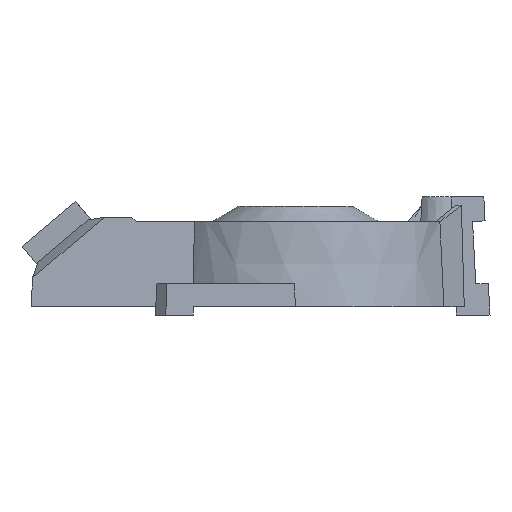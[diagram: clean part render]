
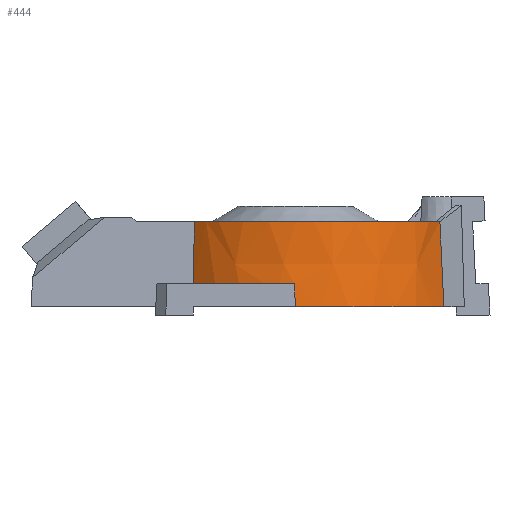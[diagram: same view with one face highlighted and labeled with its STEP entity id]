
A CAD part, front view. The second image highlights one B-rep face of the part: STEP entity #444.
In plain terms, the highlighted conical face has half-angle 3 degrees and reference radius 320 mm.
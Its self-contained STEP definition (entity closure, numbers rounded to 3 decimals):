
#16 = CARTESIAN_POINT ( 'NONE',  ( 106.478, -292.712, 187. ) ) ;
#23 = EDGE_LOOP ( 'NONE', ( #3090, #3959, #2238, #4058, #425, #1323, #4095 ) ) ;
#57 = CARTESIAN_POINT ( 'NONE',  ( -39.129, -315.704, 63. ) ) ;
#109 = DIRECTION ( 'NONE',  ( 0., 1., 0. ) ) ;
#115 = DIRECTION ( 'NONE',  ( 0., 1., 0. ) ) ;
#171 = DIRECTION ( 'NONE',  ( 0., 0., -1. ) ) ;
#202 = CARTESIAN_POINT ( 'NONE',  ( 0., 0., 17. ) ) ;
#263 = CARTESIAN_POINT ( 'NONE',  ( 289.531, -113.795, 187. ) ) ;
#412 = CARTESIAN_POINT ( 'NONE',  ( -93.039, -304.211, 63. ) ) ;
#425 = ORIENTED_EDGE ( 'NONE', *, *, #3978, .F. ) ;
#437 = B_SPLINE_CURVE_WITH_KNOTS ( 'NONE', 3,
 ( #3796, #3333, #1556, #3351, #3743, #4274, #4244, #4057, #2975, #2344 ),
 .UNSPECIFIED., .F., .F.,
 ( 4, 2, 2, 2, 4 ),
 ( 0., 0.25, 0.5, 0.75, 1. ),
 .UNSPECIFIED. ) ;
#440 = CARTESIAN_POINT ( 'NONE',  ( -202.58, -236.091, 187. ) ) ;
#444 = ADVANCED_FACE ( 'NONE', ( #2271 ), #3896, .T. ) ;
#502 = EDGE_CURVE ( 'NONE', #2553, #1730, #3385, .T. ) ;
#532 = B_SPLINE_CURVE_WITH_KNOTS ( 'NONE', 3,
 ( #3282, #2937, #1830, #3924 ),
 .UNSPECIFIED., .F., .F.,
 ( 4, 4 ),
 ( 0., 1. ),
 .UNSPECIFIED. ) ;
#728 = CARTESIAN_POINT ( 'NONE',  ( 252.822, -181.931, 187. ) ) ;
#769 = CARTESIAN_POINT ( 'NONE',  ( -144.155, -283.584, 63. ) ) ;
#853 = CARTESIAN_POINT ( 'NONE',  ( 283.858, -128.227, 187. ) ) ;
#860 = VERTEX_POINT ( 'NONE', #1016 ) ;
#997 = EDGE_CURVE ( 'NONE', #1436, #3648, #1120, .T. ) ;
#1016 = CARTESIAN_POINT ( 'NONE',  ( -202.58, -236.091, 187. ) ) ;
#1040 = CARTESIAN_POINT ( 'NONE',  ( -204.972, -242.589, 63. ) ) ;
#1090 = CARTESIAN_POINT ( 'NONE',  ( 261.587, -169.086, 187. ) ) ;
#1096 = CARTESIAN_POINT ( 'NONE',  ( 148.898, -273.582, 187. ) ) ;
#1120 = B_SPLINE_CURVE_WITH_KNOTS ( 'NONE', 3,
 ( #263, #853, #4409, #1090, #728, #1461, #1250, #4104, #3794, #2804, #1096, #1803, #16, #2539, #3818, #4439, #2451, #1159 ),
 .UNSPECIFIED., .F., .F.,
 ( 4, 2, 2, 2, 2, 2, 2, 2, 4 ),
 ( 0., 0.125, 0.25, 0.375, 0.5, 0.625, 0.75, 0.875, 1. ),
 .UNSPECIFIED. ) ;
#1159 = CARTESIAN_POINT ( 'NONE',  ( 0., -311.091, 187. ) ) ;
#1250 = CARTESIAN_POINT ( 'NONE',  ( 222.896, -217.566, 187. ) ) ;
#1323 = ORIENTED_EDGE ( 'NONE', *, *, #4053, .T. ) ;
#1428 = AXIS2_PLACEMENT_3D ( 'NONE', #1560, #3673, #109 ) ;
#1436 = VERTEX_POINT ( 'NONE', #2708 ) ;
#1461 = CARTESIAN_POINT ( 'NONE',  ( 233.477, -206.171, 187. ) ) ;
#1471 = EDGE_CURVE ( 'NONE', #2553, #2814, #4021, .T. ) ;
#1476 = B_SPLINE_CURVE_WITH_KNOTS ( 'NONE', 3,
 ( #1498, #3948, #3298, #769, #2951, #412, #2584, #57, #2222, #4235 ),
 .UNSPECIFIED., .F., .F.,
 ( 4, 2, 2, 2, 4 ),
 ( 0., 0.25, 0.5, 0.75, 1. ),
 .UNSPECIFIED. ) ;
#1498 = CARTESIAN_POINT ( 'NONE',  ( -204.972, -242.589, 63. ) ) ;
#1556 = CARTESIAN_POINT ( 'NONE',  ( -36.768, -309.457, 187. ) ) ;
#1560 = CARTESIAN_POINT ( 'NONE',  ( 0., 0., 17. ) ) ;
#1649 = CARTESIAN_POINT ( 'NONE',  ( -2.411, -317.585, 63. ) ) ;
#1730 = VERTEX_POINT ( 'NONE', #3219 ) ;
#1803 = CARTESIAN_POINT ( 'NONE',  ( 120.954, -287.033, 187. ) ) ;
#1830 = CARTESIAN_POINT ( 'NONE',  ( 294.828, -116.504, 74.008 ) ) ;
#1981 = EDGE_CURVE ( 'NONE', #3648, #860, #437, .T. ) ;
#1984 = CARTESIAN_POINT ( 'NONE',  ( 0., -320., 17. ) ) ;
#1999 = CARTESIAN_POINT ( 'NONE',  ( -2.411, -317.585, 63. ) ) ;
#2099 = CARTESIAN_POINT ( 'NONE',  ( -204.972, -242.589, 63. ) ) ;
#2222 = CARTESIAN_POINT ( 'NONE',  ( -20.776, -317.441, 63. ) ) ;
#2238 = ORIENTED_EDGE ( 'NONE', *, *, #997, .T. ) ;
#2254 = CARTESIAN_POINT ( 'NONE',  ( -0.804, -319.196, 32.333 ) ) ;
#2271 = FACE_OUTER_BOUND ( 'NONE', #23, .T. ) ;
#2309 = CARTESIAN_POINT ( 'NONE',  ( -1.607, -318.393, 47.667 ) ) ;
#2344 = CARTESIAN_POINT ( 'NONE',  ( -202.58, -236.091, 187. ) ) ;
#2451 = CARTESIAN_POINT ( 'NONE',  ( 15.507, -311.091, 187. ) ) ;
#2488 = CARTESIAN_POINT ( 'NONE',  ( -204.174, -240.41, 104.576 ) ) ;
#2539 = CARTESIAN_POINT ( 'NONE',  ( 76.841, -301.85, 187. ) ) ;
#2553 = VERTEX_POINT ( 'NONE', #3029 ) ;
#2584 = CARTESIAN_POINT ( 'NONE',  ( -75.261, -309.089, 63. ) ) ;
#2708 = CARTESIAN_POINT ( 'NONE',  ( 289.531, -113.795, 187. ) ) ;
#2804 = CARTESIAN_POINT ( 'NONE',  ( 162.367, -265.81, 187. ) ) ;
#2814 = VERTEX_POINT ( 'NONE', #1649 ) ;
#2883 = VERTEX_POINT ( 'NONE', #2099 ) ;
#2937 = CARTESIAN_POINT ( 'NONE',  ( 292.172, -115.145, 130.675 ) ) ;
#2951 = CARTESIAN_POINT ( 'NONE',  ( -127.486, -291.458, 63. ) ) ;
#2975 = CARTESIAN_POINT ( 'NONE',  ( -188.628, -248.062, 187. ) ) ;
#2977 = CARTESIAN_POINT ( 'NONE',  ( -203.377, -238.244, 145.909 ) ) ;
#3029 = CARTESIAN_POINT ( 'NONE',  ( 0., -320., 17. ) ) ;
#3090 = ORIENTED_EDGE ( 'NONE', *, *, #502, .T. ) ;
#3184 = B_SPLINE_CURVE_WITH_KNOTS ( 'NONE', 3,
 ( #1040, #2488, #2977, #440 ),
 .UNSPECIFIED., .F., .F.,
 ( 4, 4 ),
 ( 0., 1. ),
 .UNSPECIFIED. ) ;
#3219 = CARTESIAN_POINT ( 'NONE',  ( 297.499, -117.873, 17. ) ) ;
#3282 = CARTESIAN_POINT ( 'NONE',  ( 289.531, -113.795, 187. ) ) ;
#3298 = CARTESIAN_POINT ( 'NONE',  ( -175.883, -265.076, 63. ) ) ;
#3333 = CARTESIAN_POINT ( 'NONE',  ( -18.384, -311.091, 187. ) ) ;
#3351 = CARTESIAN_POINT ( 'NONE',  ( -72.96, -302.972, 187. ) ) ;
#3385 = CIRCLE ( 'NONE', #1428, 320. ) ;
#3648 = VERTEX_POINT ( 'NONE', #4430 ) ;
#3673 = DIRECTION ( 'NONE',  ( 0., 0., 1. ) ) ;
#3743 = CARTESIAN_POINT ( 'NONE',  ( -90.768, -298.122, 187. ) ) ;
#3794 = CARTESIAN_POINT ( 'NONE',  ( 187.995, -248.346, 187. ) ) ;
#3796 = CARTESIAN_POINT ( 'NONE',  ( 0., -311.091, 187. ) ) ;
#3818 = CARTESIAN_POINT ( 'NONE',  ( 61.681, -305.309, 187. ) ) ;
#3896 = CONICAL_SURFACE ( 'NONE', #4486, 320., 0.052 ) ;
#3924 = CARTESIAN_POINT ( 'NONE',  ( 297.499, -117.873, 17. ) ) ;
#3948 = CARTESIAN_POINT ( 'NONE',  ( -190.943, -254.443, 63. ) ) ;
#3959 = ORIENTED_EDGE ( 'NONE', *, *, #4106, .F. ) ;
#3978 = EDGE_CURVE ( 'NONE', #2883, #860, #3184, .T. ) ;
#4021 = B_SPLINE_CURVE_WITH_KNOTS ( 'NONE', 3,
 ( #1984, #2254, #2309, #1999 ),
 .UNSPECIFIED., .F., .F.,
 ( 4, 4 ),
 ( 0., 1. ),
 .UNSPECIFIED. ) ;
#4053 = EDGE_CURVE ( 'NONE', #2883, #2814, #1476, .T. ) ;
#4057 = CARTESIAN_POINT ( 'NONE',  ( -173.612, -258.794, 187. ) ) ;
#4058 = ORIENTED_EDGE ( 'NONE', *, *, #1981, .T. ) ;
#4095 = ORIENTED_EDGE ( 'NONE', *, *, #1471, .F. ) ;
#4104 = CARTESIAN_POINT ( 'NONE',  ( 200.156, -238.654, 187. ) ) ;
#4106 = EDGE_CURVE ( 'NONE', #1436, #1730, #532, .T. ) ;
#4235 = CARTESIAN_POINT ( 'NONE',  ( -2.411, -317.585, 63. ) ) ;
#4244 = CARTESIAN_POINT ( 'NONE',  ( -141.923, -277.441, 187. ) ) ;
#4274 = CARTESIAN_POINT ( 'NONE',  ( -125.249, -285.356, 187. ) ) ;
#4409 = CARTESIAN_POINT ( 'NONE',  ( 277.105, -142.234, 187. ) ) ;
#4430 = CARTESIAN_POINT ( 'NONE',  ( 0., -311.091, 187. ) ) ;
#4439 = CARTESIAN_POINT ( 'NONE',  ( 31.013, -309.929, 187. ) ) ;
#4486 = AXIS2_PLACEMENT_3D ( 'NONE', #202, #171, #115 ) ;
